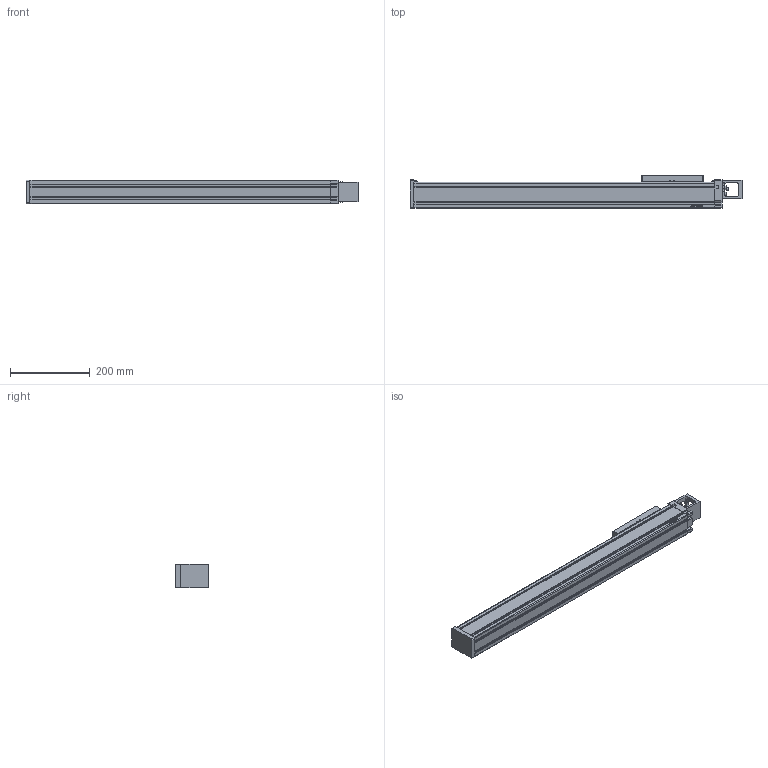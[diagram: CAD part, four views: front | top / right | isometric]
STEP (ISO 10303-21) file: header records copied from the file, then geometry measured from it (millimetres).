
FILE_DESCRIPTION(/* description */ (''),/* implementation_level */ '2;1');
FILE_NAME(/* name */ 'D:\混合母檔20191031\混和母檔\混和母檔\bin\Debug\Download\3D\KU60-5C-550AF0\KU60-5C-550AF0.stp',/* time_stamp */ '2019-11-04T16:33:08+08:00',/* author */ ('user'),/* organization */ (''),/* preprocessor_version */ 'ST-DEVELOPER v16.13',/* originating_system */ 'Autodesk Inventor 2018',/* authorisation */ '');
FILE_SCHEMA (('AUTOMOTIVE_DESIGN { 1 0 10303 214 3 1 1 }'));
Length unit declared in the file: millimetre
Products named in the file (3): KU60-5C-550AF0; KU060-F0-BP; KU60-SL
Assembly tree (2 placements, depth 2):
  KU60-5C-550AF0
    KU060-F0-BP
    KU60-SL
Bounding box: 831 x 82 x 60 mm (x, y, z)
Volume: 3053339.4 mm3; surface area: 316708 mm2
Topology: 2 solids, 14 shells, 756 faces, 2087 edges, 1370 vertices
Faces by surface type: plane 448, bspline 140, cylinder 133, cone 23, torus 12
Full cylindrical faces by diameter (mm): 2.459 x8, 3 x4, 3.242 x16, 3.5 x4, 4.5 x4, 5 x4, 5.5 x4, 5.7 x4, 6 x1, 8 x1, 8.5 x4, 30 x1, 35 x1
Entity records: 24568 total; most frequent: CARTESIAN_POINT 6539, ORIENTED_EDGE 3902, DIRECTION 3204, EDGE_CURVE 1951, VERTEX_POINT 1321, LINE 1288, VECTOR 1288, AXIS2_PLACEMENT_3D 958
